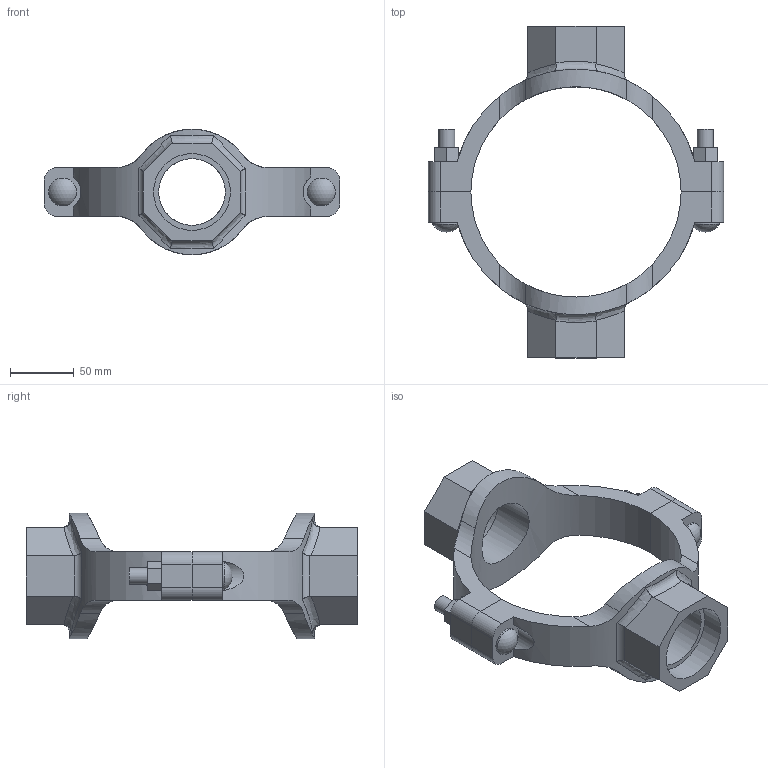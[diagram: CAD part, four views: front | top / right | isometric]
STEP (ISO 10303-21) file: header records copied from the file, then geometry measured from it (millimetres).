
FILE_DESCRIPTION(/* description */ ('VIC MECH-T BRANCH OUTLET CROSS STYLE 920N (THD)','CAx-IF Rec.Pracs.---Representation and Presentation of Product Manufacturing Information (PMI)---4.0---2014-10-13'),/* implementation_level */ '2;1');
FILE_NAME(/* name */ 'C:\Users\Vjadhav\AppData\Roaming\Autodesk\ApplicationPlugins\Back Up\Victaulic_IPS_Mechanical-Cross Outlet_Style 920N (FPT)\Victaulic_IPS_Mechanical-Cross Outlet_06.0 (165.1)x02.0x02.0 (150x50x50).stp',/* time_stamp */ '2020-08-06T19:00:08+06:00',/* author */ ('Vjadhav'),/* organization */ ('Victaulic'),/* preprocessor_version */ 'ST-DEVELOPER v17.2',/* originating_system */ 'Autodesk Inventor 2019',/* authorisation */ '');
FILE_SCHEMA (('AP242_MANAGED_MODEL_BASED_3D_ENGINEERING_MIM_LF { 1 0 10303 442 1 1 4 }'));
Length unit declared in the file: inch
Products named in the file (3): 920NT-06.0 (165.1)x02.0x02.0; 920NT-06.0 (165.1)x02.0; 920NT-06.0 (165.1)x02.0_1
Assembly tree (2 placements, depth 2):
  920NT-06.0 (165.1)x02.0x02.0
    920NT-06.0 (165.1)x02.0
    920NT-06.0 (165.1)x02.0_1
Bounding box: 231.9 x 260.6 x 98.55 mm (x, y, z)
Volume: 596073.5 mm3; surface area: 127095.2 mm2
Topology: 2 solids, 2 shells, 132 faces, 350 edges, 236 vertices
Faces by surface type: plane 68, cylinder 50, bspline 8, torus 4, sphere 2
Full cylindrical faces by diameter (mm): 12.7 x4, 21.982 x2, 52.387 x2, 60.325 x2
Entity records: 5234 total; most frequent: CARTESIAN_POINT 1721, ORIENTED_EDGE 700, DIRECTION 648, EDGE_CURVE 350, VERTEX_POINT 236, AXIS2_PLACEMENT_3D 231, LINE 186, VECTOR 186
